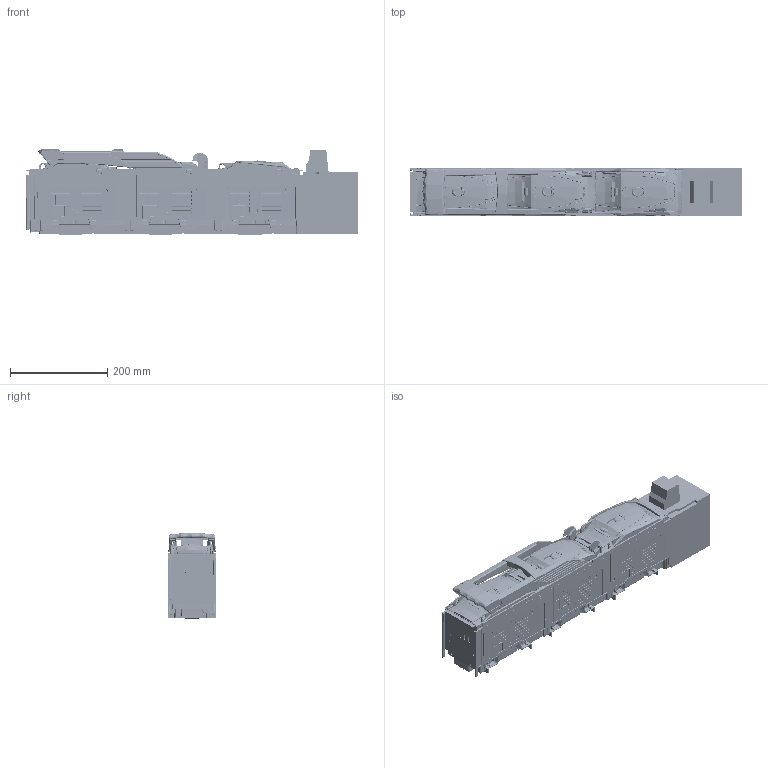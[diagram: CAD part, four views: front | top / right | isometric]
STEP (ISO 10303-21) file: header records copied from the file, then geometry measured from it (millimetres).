
FILE_DESCRIPTION(/* description */ (''),/* implementation_level */ '2;1');
FILE_NAME(/* name */ 'ARS 400-6-V.stp',/* time_stamp */ '2018-07-16T09:32:31+02:00',/* author */ (''),/* organization */ (''),/* preprocessor_version */ 'ST-DEVELOPER v16',/* originating_system */ 'SIEMENS PLM Software NX 10.0',/* authorisation */ '');
FILE_SCHEMA (('AUTOMOTIVE_DESIGN { 1 0 10303 214 3 1 1 1 }'));
Products named in the file (1): 710_0AD4EC05y3gu
Bounding box: 684.3 x 99.42 x 177.49 mm (x, y, z)
Volume: 7720275.7 mm3; surface area: 683337.8 mm2
Topology: 1 solids, 20 shells, 14205 faces, 37550 edges, 23273 vertices
Faces by surface type: plane 5002, bspline 4239, cylinder 3549, torus 432, cone 354, extrusion 316, sphere 311, revolution 2
Full cylindrical faces by diameter (mm): 1.7 x12, 2.263 x2, 2.9 x1, 3 x4, 3.1 x1, 3.5 x4, 3.7 x4, 5 x1, 5.6 x1, 6 x2, 6.5 x2, 7.228 x1, 8 x1, 8.228 x1, 9.5 x4, 14 x1
Entity records: 645507 total; most frequent: CARTESIAN_POINT 285582, ORIENTED_EDGE 74304, DIRECTION 51058, EDGE_CURVE 37152, VERTEX_POINT 23252, VECTOR 17190, AXIS2_PLACEMENT_3D 16933, LINE 16874
